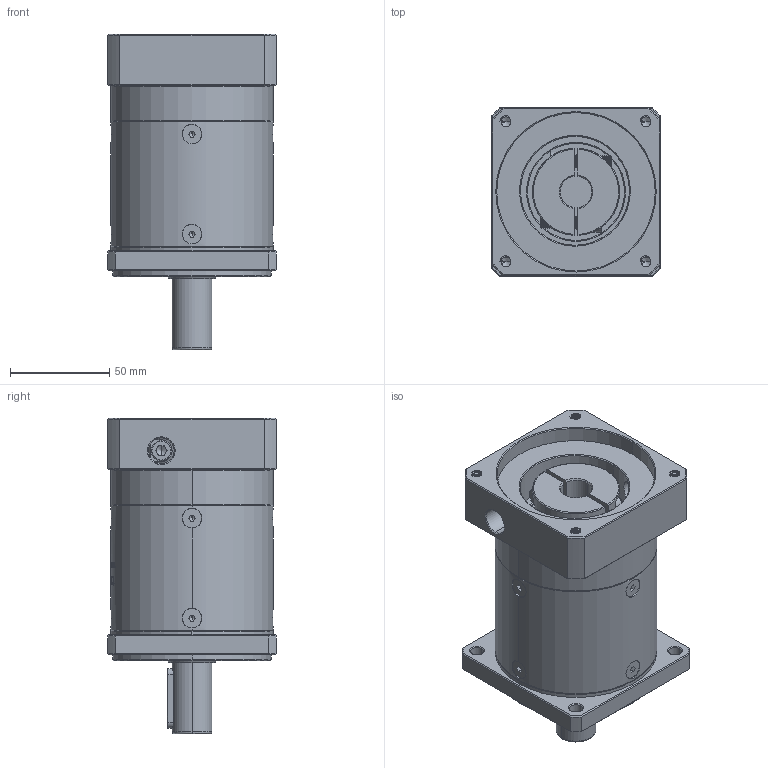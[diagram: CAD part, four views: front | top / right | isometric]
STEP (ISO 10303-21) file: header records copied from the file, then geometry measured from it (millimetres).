
FILE_DESCRIPTION (( 'STEP AP214' ), '1' );
FILE_NAME ('ZF80-D20-L2-16-80-100-M6.step', '2022-05-08T09:15:05', ( '' ), ( 'Microsoft' ), 'SwSTEP 2.0', 'SolidWorks 2016', '' );
FILE_SCHEMA (( 'AUTOMOTIVE_DESIGN' ));
Length unit declared in the file: millimetre
Products named in the file (1): ZF80-D20-L2-16-80-100-M6
Bounding box: 85 x 85 x 159.5 mm (x, y, z)
Volume: 638801.1 mm3; surface area: 94124.9 mm2
Topology: 13 solids, 13 shells, 1979 faces, 5120 edges, 3235 vertices
Faces by surface type: plane 896, cylinder 408, cone 338, bspline 320, torus 17
Entity records: 107696 total; most frequent: CARTESIAN_POINT 41261, ORIENTED_EDGE 10180, DIRECTION 8024, EDGE_CURVE 5090, VERTEX_POINT 3235, LINE 2760, VECTOR 2760, AXIS2_PLACEMENT_3D 2632
